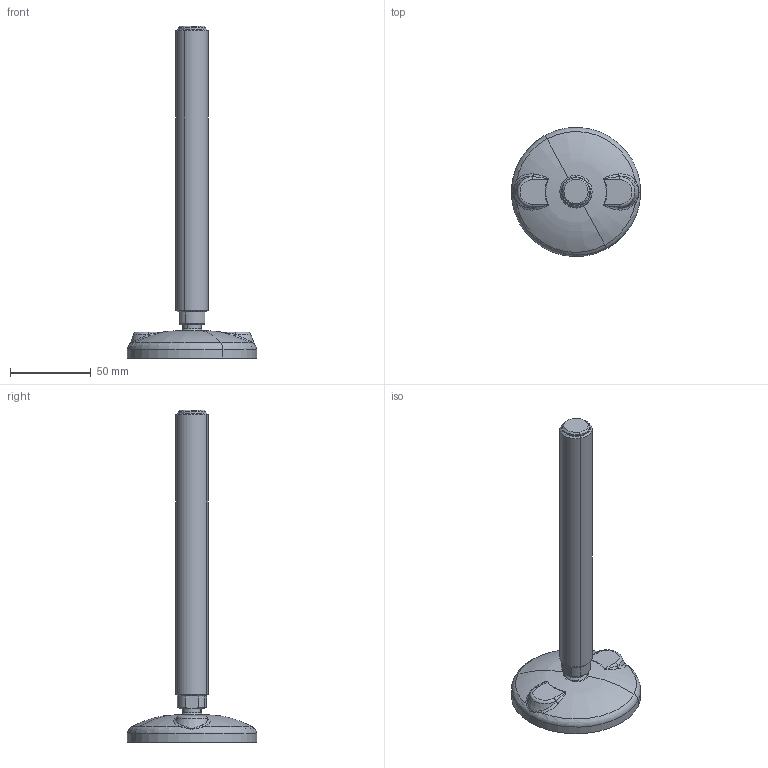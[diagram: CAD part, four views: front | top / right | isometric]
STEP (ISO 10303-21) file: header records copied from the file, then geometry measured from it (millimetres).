
FILE_DESCRIPTION(('CATIA V5 STEP Exchange'),'2;1');
FILE_NAME('C:\Users\dentellad\Desktop\P95503Z_01.stp','2017-03-20T07:45:12+00:00',('none'),('none'),'Version 5-6 Release 2012','CATIA V5 STEP AP203','none');
FILE_SCHEMA(('CONFIG_CONTROL_DESIGN'));
Length unit declared in the file: millimetre
Products named in the file (1): P95503Z_01
Assembly tree (2 placements, depth 2):
  P95503Z_01
    #58
    #22053
Bounding box: 79.98 x 79.98 x 205.5 mm (x, y, z)
Volume: 87692.7 mm3; surface area: 33078 mm2
Topology: 2 solids, 2 shells, 643 faces, 1822 edges, 1193 vertices
Faces by surface type: plane 490, torus 48, cylinder 36, revolution 21, sphere 18, cone 16, bspline 14
Entity records: 22739 total; most frequent: CARTESIAN_POINT 8758, ORIENTED_EDGE 3632, EDGE_CURVE 1816, DIRECTION 1729, VERTEX_POINT 1193, B_SPLINE_CURVE_WITH_KNOTS 1101, AXIS2_PLACEMENT_3D 712, EDGE_LOOP 659
